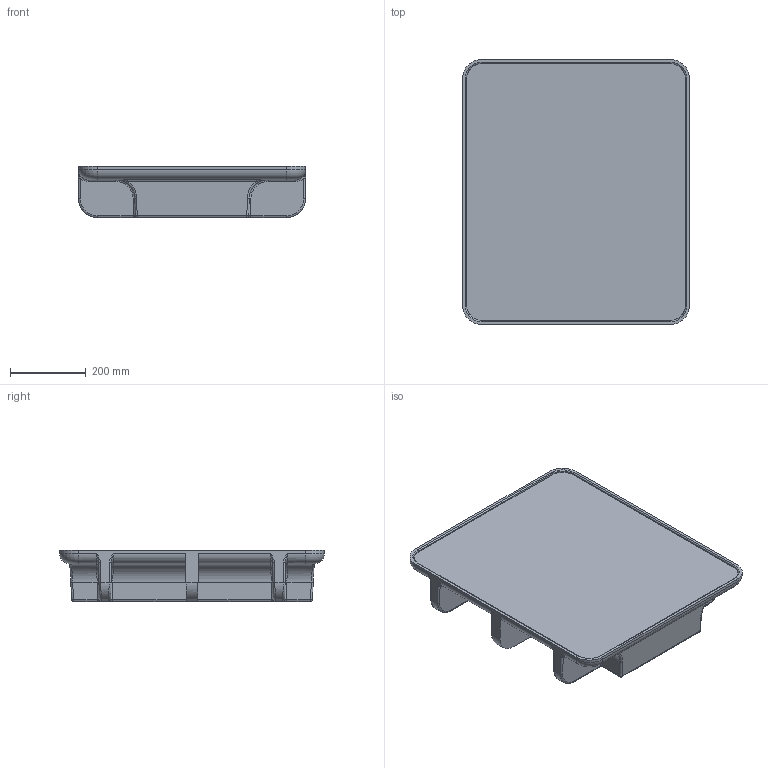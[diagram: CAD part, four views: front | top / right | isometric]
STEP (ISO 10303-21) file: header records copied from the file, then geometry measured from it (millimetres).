
FILE_DESCRIPTION (( 'STEP AP203' ), '1' );
FILE_NAME ('ANF SP.STEP', '2019-01-22T10:36:25', ( '' ), ( '' ), 'SwSTEP 2.0', 'SolidWorks 2019', '' );
FILE_SCHEMA (( 'CONFIG_CONTROL_DESIGN' ));
Length unit declared in the file: millimetre
Products named in the file (5): ANF SP; SPECCHIONEW; piastra fixparete; placcaretrospecchio; SPECCHIO ANFIBIO 31 05 2016
Assembly tree (4 placements, depth 2):
  ANF SP
    SPECCHIO ANFIBIO 31 05 2016
    SPECCHIONEW
    placcaretrospecchio
    piastra fixparete
Bounding box: 600 x 700 x 135 mm (x, y, z)
Volume: 20723536.4 mm3; surface area: 2340017.3 mm2
Topology: 4 solids, 4 shells, 400 faces, 974 edges, 572 vertices
Faces by surface type: cylinder 162, plane 110, bspline 80, torus 28, cone 12, sphere 8
Entity records: 15521 total; most frequent: CARTESIAN_POINT 6341, ORIENTED_EDGE 1924, DIRECTION 1732, EDGE_CURVE 962, AXIS2_PLACEMENT_3D 631, VERTEX_POINT 572, LINE 470, VECTOR 470
